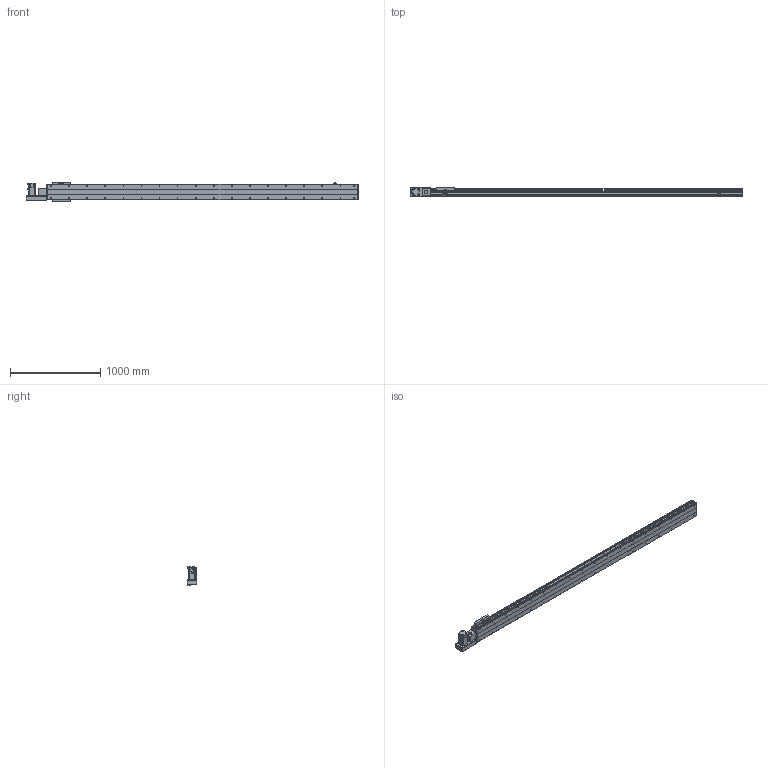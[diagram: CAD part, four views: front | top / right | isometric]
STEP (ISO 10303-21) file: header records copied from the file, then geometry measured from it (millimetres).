
FILE_DESCRIPTION(/* description */ ('STEP AP214'),/* implementation_level */ '2;1');
FILE_NAME(/* name */ 'PBS200-P40-S3050-L-T75-C1-N(0)',/* time_stamp */ '2022-06-11T07:51:35+02:00',/* author */ ('License CC BY-ND 4.0'),/* organization */ ('CADENAS'),/* preprocessor_version */ 'ST-DEVELOPER v18.102',/* originating_system */ 'PARTsolutions',/* authorisation */ ' ');
FILE_SCHEMA (('AUTOMOTIVE_DESIGN {1 0 10303 214 3 1 1}'));
Length unit declared in the file: millimetre
Products named in the file (7): PBS200-P40-S3050-L-T75-C1-N(0); PBS200_sensor; PBS200_plant; PBS200_sliser; T75-p1; PBS200T-L_motors; PBS200-S3050()_body
Assembly tree (8 placements, depth 2):
  PBS200-P40-S3050-L-T75-C1-N(0)
    PBS200_sensor  x3
    PBS200_plant
    PBS200_sliser
    T75-p1
    PBS200T-L_motors
    PBS200-S3050()_body
Bounding box: 3672 x 109 x 221 mm (x, y, z)
Volume: 24038485.8 mm3; surface area: 3837766.1 mm2
Topology: 8 solids, 8 shells, 980 faces, 2474 edges, 1608 vertices
Faces by surface type: plane 594, cylinder 318, cone 68
Full cylindrical faces by diameter (mm): 2.459 x6, 3.242 x4, 4.5 x6, 4.917 x4, 5 x6, 6 x7, 6.6 x8, 6.647 x40, 8 x6, 10 x4, 12 x8, 38 x2, 40 x1, 70 x1
Entity records: 25781 total; most frequent: DIRECTION 4567, CARTESIAN_POINT 4372, ORIENTED_EDGE 4102, EDGE_CURVE 2051, AXIS2_PLACEMENT_3D 1627, VERTEX_POINT 1432, LINE 1313, VECTOR 1313
